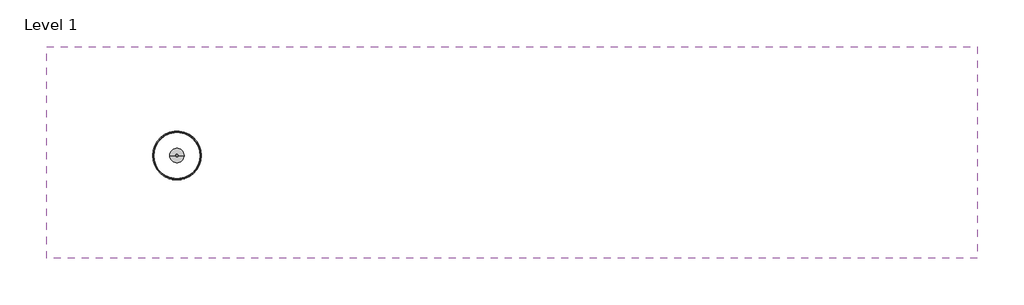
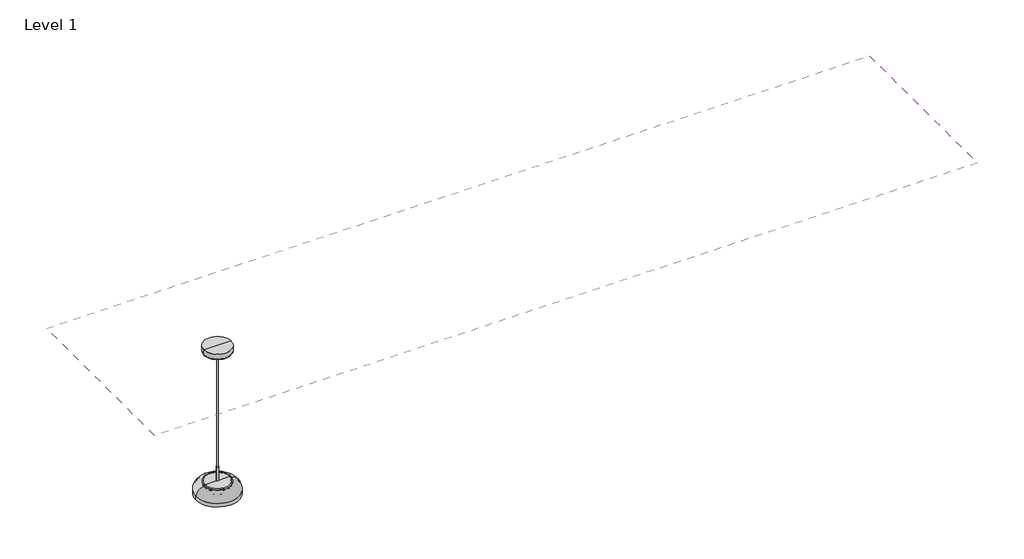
# One storey: 1 covering, 1 light fixture.
"""IFC4 building model written with IfcOpenShell, lengths in millimetres."""

import ifcopenshell
import ifcopenshell.guid

model = None  # the IFC model being written
_history = None  # IfcOwnerHistory: only IFC2X3 demands one
_inside = {}  # id of a spatial element -> (the spatial element, [elements in it])
_under = {}  # id of a project, library or spatial element -> (it, [spatial elements below it])
_declared = {}  # id of a project -> (the project, [libraries it declares])
_typed = {}  # id of a type object -> (the type object, [elements of that type])
_made_of = {}  # id of a material, layer set ... -> (it, [elements and type objects made of it])


def new_model(schema):
    """Start an empty IFC model of exactly this schema.

    Asked for "IFC4X3", IfcOpenShell would pick the latest addendum, in which some entities
    have other attributes; the version numbers below select the first issue.
    IFC2X3 requires an IfcOwnerHistory on every rooted entity: one is made here for all.
    """
    global model, _history
    if schema == "IFC4X3":
        model = ifcopenshell.file(schema_version=(4, 3, 0, 0))
    else:
        model = ifcopenshell.file(schema=schema)
    _inside.clear()
    _under.clear()
    _declared.clear()
    _typed.clear()
    _made_of.clear()
    _history = None
    if model.schema == "IFC2X3":
        org = make("IfcOrganization", Name="unknown")
        user = make(
            "IfcPersonAndOrganization",
            ThePerson=make("IfcPerson", FamilyName="unknown"),
            TheOrganization=org,
        )
        app = make(
            "IfcApplication",
            ApplicationDeveloper=org,
            Version="unknown",
            ApplicationFullName="unknown",
            ApplicationIdentifier="unknown",
        )
        _history = make(
            "IfcOwnerHistory",
            OwningUser=user,
            OwningApplication=app,
            ChangeAction="ADDED",
            CreationDate=0,
        )
    return model


def make(cls, **values):
    """One entity of the class cls with the attributes given. An attribute that is None is left unset."""
    return model.create_entity(
        cls, **{name: value for name, value in values.items() if value is not None}
    )


def rooted(cls, **values):
    """An entity with a GlobalId (a new one), such as an element, a storey or a relation."""
    return make(cls, GlobalId=ifcopenshell.guid.new(), OwnerHistory=_history, **values)


def si_unit(unit_type, name, prefix=None):
    """IfcSIUnit, for example si_unit("LENGTHUNIT", "METRE", prefix="MILLI")."""
    return make("IfcSIUnit", UnitType=unit_type, Prefix=prefix, Name=name)


def assignment(units):
    """IfcUnitAssignment: the units of a project."""
    return None if units is None else make("IfcUnitAssignment", Units=units)


def point(xyz):
    """IfcCartesianPoint."""
    return None if xyz is None else make("IfcCartesianPoint", Coordinates=xyz)


def direction(xyz):
    """IfcDirection."""
    return None if xyz is None else make("IfcDirection", DirectionRatios=xyz)


def frame(location, z_axis=None, x_axis=None):
    """IfcAxis2Placement3D, a coordinate frame: its origin and axes. An axis left out is left unset."""
    return make(
        "IfcAxis2Placement3D",
        Location=point(location),
        Axis=direction(z_axis),
        RefDirection=direction(x_axis),
    )


def frame_2d(location, x_axis=None):
    """IfcAxis2Placement2D, a coordinate frame in the plane: its origin and x axis."""
    return make(
        "IfcAxis2Placement2D", Location=point(location), RefDirection=direction(x_axis)
    )


def origin():
    """The frame at (0, 0, 0) with its axes left unset."""
    return frame((0.0, 0.0, 0.0))


def origin_2d():
    """The frame at (0, 0) in the plane with its x axis left unset."""
    return frame_2d((0.0, 0.0))


def place(relative_to, where):
    """IfcLocalPlacement: puts the frame where relative to a parent placement (None: the world)."""
    return make(
        "IfcLocalPlacement", PlacementRelTo=relative_to, RelativePlacement=where
    )


def context(
    kind, dimensions, precision=None, world=None, true_north=None, identifier=None
):
    """IfcGeometricRepresentationContext, for example the 3D "Model" context."""
    return make(
        "IfcGeometricRepresentationContext",
        ContextIdentifier=identifier,
        ContextType=kind,
        CoordinateSpaceDimension=dimensions,
        Precision=precision,
        WorldCoordinateSystem=world,
        TrueNorth=true_north,
    )


def project(units=None, contexts=None):
    """IfcProject with its units and contexts."""
    return rooted(
        "IfcProject",
        Name="project",
        RepresentationContexts=contexts,
        UnitsInContext=assignment(units),
    )


def spatial(cls, under=None, at=None, **own):
    """A site, building, storey or space (cls), placed at a placement, below another one or the project."""
    s = rooted(cls, ObjectPlacement=at, **own)
    if under is not None:
        _under.setdefault(under.id(), (under, []))[1].append(s)
    return s


def polyline(points):
    """IfcPolyline through the points."""
    return make("IfcPolyline", Points=[point(p) for p in points])


def circle_curve(where, radius):
    """IfcCircle in the frame where."""
    return make("IfcCircle", Position=where, Radius=radius)


def ellipse_curve(where, semi_axis1, semi_axis2):
    """IfcEllipse in the frame where."""
    return make(
        "IfcEllipse", Position=where, SemiAxis1=semi_axis1, SemiAxis2=semi_axis2
    )


def trimmed(basis, trim1, trim2, sense, master):
    """IfcTrimmedCurve: the piece of a basis curve between two trims."""
    return make(
        "IfcTrimmedCurve",
        BasisCurve=basis,
        Trim1=trim1,
        Trim2=trim2,
        SenseAgreement=sense,
        MasterRepresentation=master,
    )


def segment(curve, same_sense, transition):
    """IfcCompositeCurveSegment."""
    return make(
        "IfcCompositeCurveSegment",
        Transition=transition,
        SameSense=same_sense,
        ParentCurve=curve,
    )


def composite_curve(segments, self_intersect=None):
    """IfcCompositeCurve: segments joined end to end."""
    return make("IfcCompositeCurve", Segments=segments, SelfIntersect=self_intersect)


def outline(outer, holes=None, kind="AREA"):
    """IfcArbitraryClosedProfileDef: a profile drawn as a closed curve; with holes, ...WithVoids."""
    if holes is None:
        return make("IfcArbitraryClosedProfileDef", ProfileType=kind, OuterCurve=outer)
    return make(
        "IfcArbitraryProfileDefWithVoids",
        ProfileType=kind,
        OuterCurve=outer,
        InnerCurves=holes,
    )


def extrude(swept, where, along, depth):
    """IfcExtrudedAreaSolid: the profile swept, set in the frame where, extruded along a direction by depth."""
    return make(
        "IfcExtrudedAreaSolid",
        SweptArea=swept,
        Position=where,
        ExtrudedDirection=direction(along),
        Depth=depth,
    )


def shape(context_of_items, identifier, shape_type, items):
    """IfcShapeRepresentation: the items that make up one representation, for example the "Body"."""
    return make(
        "IfcShapeRepresentation",
        ContextOfItems=context_of_items,
        RepresentationIdentifier=identifier,
        RepresentationType=shape_type,
        Items=items,
    )


def source(mapping_origin, context_of_items, identifier, shape_type, items):
    """IfcRepresentationMap: a shape defined once, which mapped items show again and again."""
    return make(
        "IfcRepresentationMap",
        MappingOrigin=mapping_origin,
        MappedRepresentation=shape(context_of_items, identifier, shape_type, items),
    )


def transform(
    local_origin,
    x_axis=None,
    y_axis=None,
    z_axis=None,
    scale=None,
    scale2=None,
    scale3=None,
    uniform=True,
):
    """IfcCartesianTransformationOperator3D, or its non-uniform kind. x_axis, y_axis, z_axis: its Axis1, 2, 3."""
    if uniform:
        return make(
            "IfcCartesianTransformationOperator3D",
            Axis1=direction(x_axis),
            Axis2=direction(y_axis),
            LocalOrigin=point(local_origin),
            Scale=scale,
            Axis3=direction(z_axis),
        )
    return make(
        "IfcCartesianTransformationOperator3DnonUniform",
        Axis1=direction(x_axis),
        Axis2=direction(y_axis),
        LocalOrigin=point(local_origin),
        Scale=scale,
        Axis3=direction(z_axis),
        Scale2=scale2,
        Scale3=scale3,
    )


def mapped(mapping_source, mapping_target):
    """IfcMappedItem: shows the shape of a source again, moved by a transform."""
    return make(
        "IfcMappedItem", MappingSource=mapping_source, MappingTarget=mapping_target
    )


def made_of(thing, what):
    """Note that an element or type object is made of a material, layer set ...; save() writes the relation."""
    if what is not None:
        _made_of.setdefault(what.id(), (what, []))[1].append(thing)
    return thing


def element(
    cls,
    number,
    at=None,
    inside=None,
    cuts=None,
    type_object=None,
    material=None,
    context=None,
    identifier="Body",
    shape_type=None,
    held_by="IfcProductDefinitionShape",
    body=None,
    shapes=None,
    **own,
):
    """One element of the class cls, such as IfcWall. Its Tag is "e" and its number.

    at: its placement. inside: the storey or other place that contains it. cuts: it is an
    opening in that element (IfcRelVoidsElement). A single representation is given by context,
    identifier, shape_type and body (its items); several are given by shapes. held_by: the class
    of the entity that holds the representations. save() writes the other relations.
    """
    e = rooted(cls, Tag="e%d" % number, ObjectPlacement=at, **own)
    if body is not None:
        shapes = [shape(context, identifier, shape_type, body)]
    if shapes is not None:
        e.Representation = make(held_by, Representations=shapes)
    if inside is not None:
        _inside.setdefault(inside.id(), (inside, []))[1].append(e)
    if cuts is not None:
        rooted(
            "IfcRelVoidsElement", RelatingBuildingElement=cuts, RelatedOpeningElement=e
        )
    if type_object is not None:
        _typed.setdefault(type_object.id(), (type_object, []))[1].append(e)
    return made_of(e, material)


def aggregate(whole, parts):
    """IfcRelAggregates: a whole, such as a stair, and the parts it consists of."""
    return rooted("IfcRelAggregates", RelatingObject=whole, RelatedObjects=parts)


def save(model, path):
    """Write the relations noted so far, then the file.

    IfcRelAggregates (storeys below a building ...), IfcRelContainedInSpatialStructure (elements
    in a storey), IfcRelDefinesByType, IfcRelAssociatesMaterial and IfcRelDeclares: one each for
    every whole, place, type object, material and project.
    """
    for whole, parts in _under.values():
        aggregate(whole, parts)
    for where, things in _inside.values():
        rooted(
            "IfcRelContainedInSpatialStructure",
            RelatedElements=things,
            RelatingStructure=where,
        )
    for kind, things in _typed.values():
        rooted("IfcRelDefinesByType", RelatedObjects=things, RelatingType=kind)
    for what, things in _made_of.values():
        rooted("IfcRelAssociatesMaterial", RelatedObjects=things, RelatingMaterial=what)
    for by, libraries in _declared.values():
        rooted("IfcRelDeclares", RelatingContext=by, RelatedDefinitions=libraries)
    model.write(path)


def plane_surface(at):
    """IfcPlane: the flat surface through the origin of the frame at, square to its z axis."""
    return make("IfcPlane", Position=at)


def cylinder_surface(at, radius):
    """IfcCylindricalSurface: all points at the distance radius from the z axis of the frame at."""
    return make("IfcCylindricalSurface", Position=at, Radius=radius)


def revolved_surface(curve, axis_point, axis_direction):
    """IfcSurfaceOfRevolution: the curve turned about the line through axis_point along axis_direction."""
    return make(
        "IfcSurfaceOfRevolution",
        SweptCurve=make("IfcArbitraryOpenProfileDef", ProfileType="CURVE", Curve=curve),
        AxisPosition=make("IfcAxis1Placement", Location=point(axis_point), Axis=direction(axis_direction)),
    )


def advanced_brep(points, edges, surfaces, faces):
    """IfcAdvancedBrep: a solid bounded by faces that lie on surfaces and meet in shared edges.

    An edge is (start, end): straight between two places in points (the first is 0);
    or (start, end, curve); or (start, end, curve, False) where it runs against its curve.
    A face is (place in surfaces, loops), or (place, loops, False) where it looks against
    its surface's normal. A loop lists edges by number (the first is 1), with a minus sign
    where the edge is run from its end to its start. The first loop is the outer one.
    """
    corners = [point(p) for p in points]
    vertices = [make("IfcVertexPoint", VertexGeometry=c) for c in corners]
    made = []
    for start, end, *more in edges:
        made.append(
            make(
                "IfcEdgeCurve",
                EdgeStart=vertices[start],
                EdgeEnd=vertices[end],
                EdgeGeometry=more[0] if more else make("IfcPolyline", Points=[corners[start], corners[end]]),
                SameSense=more[1] if len(more) > 1 else True,
            )
        )
    hull = []
    for where, loops, *sense in faces:
        bounds = []
        for j, loop in enumerate(loops):
            ring = [make("IfcOrientedEdge", EdgeElement=made[abs(k) - 1], Orientation=k > 0) for k in loop]
            bounds.append(
                make(
                    "IfcFaceOuterBound" if j == 0 else "IfcFaceBound",
                    Bound=make("IfcEdgeLoop", EdgeList=ring),
                    Orientation=True,
                )
            )
        hull.append(make("IfcAdvancedFace", Bounds=bounds, FaceSurface=surfaces[where], SameSense=sense[0] if sense else True))
    return make("IfcAdvancedBrep", Outer=make("IfcClosedShell", CfsFaces=hull))


def type_1_ec86bb28(model_context):
    return source(origin(), model_context, "Body", "SolidModel", [
        advanced_brep(
        [(-65.0, 0.0, 1671.4), (65.0, 0.0, 1671.4), (65.0, 0.0, 1668.4), (-65.0, 0.0, 1668.4), (-61.0, 0.0, 1671.4), (61.0, 0.0, 1671.4), (-61.0, 0.0, 1664.4), (61.0, 0.0, 1664.4), (-71.0, 0.0, 1664.4), (71.0, 0.0, 1664.4), (-111.0, 0.0, 1624.4), (111.0, 0.0, 1624.4), (-111.0, 0.0, 1604.4), (111.0, 0.0, 1604.4), (-115.0, 0.0, 1604.4), (115.0, 0.0, 1604.4), (-115.0, 0.0, 1624.4), (115.0, 0.0, 1624.4), (-71.0, 0.0, 1668.4), (71.0, 0.0, 1668.4)],
        [
            (0, 1, circle_curve(frame((0.0, 0.0, 1671.4), z_axis=(0.0, 0.0, -1.0), x_axis=(1.0, 0.0, 0.0)), 65.0)),
            (1, 2),
            (2, 3, circle_curve(frame((0.0, 0.0, 1668.4), z_axis=(0.0, 0.0, 1.0), x_axis=(1.0, 0.0, 0.0)), 65.0)),
            (3, 0),
            (1, 0, circle_curve(frame((0.0, 0.0, 1671.4), z_axis=(0.0, 0.0, -1.0), x_axis=(1.0, 0.0, 0.0)), 65.0)),
            (3, 2, circle_curve(frame((0.0, 0.0, 1668.4), z_axis=(0.0, 0.0, 1.0), x_axis=(1.0, 0.0, 0.0)), 65.0)),
            (4, 5, circle_curve(frame((0.0, 0.0, 1671.4), z_axis=(0.0, 0.0, -1.0), x_axis=(1.0, 0.0, 0.0)), 61.0)),
            (5, 1),
            (0, 4),
            (5, 4, circle_curve(frame((0.0, 0.0, 1671.4), z_axis=(0.0, 0.0, -1.0), x_axis=(1.0, 0.0, 0.0)), 61.0)),
            (6, 7, circle_curve(frame((0.0, 0.0, 1664.4), z_axis=(0.0, 0.0, -1.0), x_axis=(1.0, 0.0, 0.0)), 61.0)),
            (7, 5),
            (4, 6),
            (7, 6, circle_curve(frame((0.0, 0.0, 1664.4), z_axis=(0.0, 0.0, -1.0), x_axis=(1.0, 0.0, 0.0)), 61.0)),
            (8, 9, circle_curve(frame((0.0, 0.0, 1664.4), z_axis=(0.0, 0.0, -1.0), x_axis=(1.0, 0.0, 0.0)), 71.0)),
            (9, 7),
            (6, 8),
            (9, 8, circle_curve(frame((0.0, 0.0, 1664.4), z_axis=(0.0, 0.0, -1.0), x_axis=(1.0, 0.0, 0.0)), 71.0)),
            (10, 11, circle_curve(frame((0.0, 0.0, 1624.4), z_axis=(0.0, 0.0, -1.0), x_axis=(1.0, 0.0, 0.0)), 111.0)),
            (11, 9, circle_curve(frame((71.0, 0.0, 1624.4), z_axis=(0.0, -1.0, 0.0), x_axis=(1.0, 0.0, 0.0)), 40.0)),
            (8, 10, circle_curve(frame((-71.0, 0.0, 1624.4), z_axis=(0.0, -1.0, 0.0), x_axis=(-1.0, 0.0, 0.0)), 40.0)),
            (11, 10, circle_curve(frame((0.0, 0.0, 1624.4), z_axis=(0.0, 0.0, -1.0), x_axis=(1.0, 0.0, 0.0)), 111.0)),
            (12, 13, circle_curve(frame((0.0, 0.0, 1604.4), z_axis=(0.0, 0.0, -1.0), x_axis=(1.0, 0.0, 0.0)), 111.0)),
            (13, 11),
            (10, 12),
            (13, 12, circle_curve(frame((0.0, 0.0, 1604.4), z_axis=(0.0, 0.0, -1.0), x_axis=(1.0, 0.0, 0.0)), 111.0)),
            (14, 15, circle_curve(frame((0.0, 0.0, 1604.4), z_axis=(0.0, 0.0, -1.0), x_axis=(1.0, 0.0, 0.0)), 115.0)),
            (15, 13),
            (12, 14),
            (15, 14, circle_curve(frame((0.0, 0.0, 1604.4), z_axis=(0.0, 0.0, -1.0), x_axis=(1.0, 0.0, 0.0)), 115.0)),
            (16, 17, circle_curve(frame((0.0, 0.0, 1624.4), z_axis=(0.0, 0.0, -1.0), x_axis=(1.0, 0.0, 0.0)), 115.0)),
            (17, 15),
            (14, 16),
            (17, 16, circle_curve(frame((0.0, 0.0, 1624.4), z_axis=(0.0, 0.0, -1.0), x_axis=(1.0, 0.0, 0.0)), 115.0)),
            (18, 19, circle_curve(frame((0.0, 0.0, 1668.4), z_axis=(0.0, 0.0, -1.0), x_axis=(1.0, 0.0, 0.0)), 71.0)),
            (19, 17, circle_curve(frame((71.0, 0.0, 1624.4), z_axis=(0.0, 1.0, 0.0), x_axis=(1.0, 0.0, 0.0)), 44.0)),
            (16, 18, circle_curve(frame((-71.0, 0.0, 1624.4), z_axis=(0.0, 1.0, 0.0), x_axis=(-1.0, 0.0, 0.0)), 44.0)),
            (19, 18, circle_curve(frame((0.0, 0.0, 1668.4), z_axis=(0.0, 0.0, -1.0), x_axis=(1.0, 0.0, 0.0)), 71.0)),
            (2, 19),
            (18, 3),
        ],
        [
            cylinder_surface(frame((0.0, 0.0, 1706.7574384), z_axis=(0.0, 0.0, 1.0), x_axis=(1.0, 0.0, 0.0)), 65.0),
            plane_surface(frame((0.0, 0.0, 1671.4), z_axis=(0.0, 0.0, 1.0), x_axis=(1.0, 0.0, 0.0))),
            revolved_surface(polyline([(61.0, 0.0, 1671.4), (61.0, 0.0, 1664.4)]), (0.0, 0.0, 1706.7574384), (0.0, 0.0, 1.0)),
            plane_surface(frame((0.0, 0.0, 1664.4), z_axis=(0.0, 0.0, -1.0), x_axis=(1.0, 0.0, 0.0))),
            revolved_surface(trimmed(ellipse_curve(frame((71.0, 0.0, 1624.4), z_axis=(0.0, 1.0, 0.0), x_axis=(1.0, 0.0, 0.0)), 40.0, 40.0), [point((71.0, 0.0, 1664.4))], [point((111.0, 0.0, 1624.4))], True, "CARTESIAN"), (0.0, 0.0, 1706.7574384), (0.0, 0.0, 1.0)),
            revolved_surface(polyline([(111.0, 0.0, 1624.4), (111.0, 0.0, 1604.4)]), (0.0, 0.0, 1706.7574384), (0.0, 0.0, 1.0)),
            plane_surface(frame((0.0, 0.0, 1604.4), z_axis=(0.0, 0.0, -1.0), x_axis=(1.0, 0.0, 0.0))),
            cylinder_surface(frame((0.0, 0.0, 1706.7574384), z_axis=(0.0, 0.0, 1.0), x_axis=(1.0, 0.0, 0.0)), 115.0),
            revolved_surface(trimmed(ellipse_curve(frame((71.0, 0.0, 1624.4), z_axis=(0.0, -1.0, 0.0), x_axis=(1.0, 0.0, 0.0)), 44.0, 44.0), [point((115.0, 0.0, 1624.4))], [point((71.0, 0.0, 1668.4))], True, "CARTESIAN"), (0.0, 0.0, 1706.7574384), (0.0, 0.0, 1.0)),
            plane_surface(frame((0.0, 0.0, 1668.4), z_axis=(0.0, 0.0, 1.0), x_axis=(1.0, 0.0, 0.0))),
        ],
        [
            (0, [[1, 2, 3, 4]]),
            (0, [[5, -4, 6, -2]]),
            (1, [[7, 8, -1, 9]]),
            (1, [[10, -9, -5, -8]]),
            (2, [[11, 12, -7, 13]]),
            (2, [[14, -13, -10, -12]]),
            (3, [[15, 16, -11, 17]]),
            (3, [[18, -17, -14, -16]]),
            (4, [[19, 20, -15, 21]]),
            (4, [[22, -21, -18, -20]]),
            (5, [[23, 24, -19, 25]]),
            (5, [[26, -25, -22, -24]]),
            (6, [[27, 28, -23, 29]]),
            (6, [[30, -29, -26, -28]]),
            (7, [[31, 32, -27, 33]]),
            (7, [[34, -33, -30, -32]]),
            (8, [[35, 36, -31, 37]]),
            (8, [[38, -37, -34, -36]]),
            (9, [[-3, 39, -35, 40]]),
            (9, [[-6, -40, -38, -39]]),
        ],
    ),
        advanced_brep(
        [(5.85, 0.0, 1624.9), (-5.85, 0.0, 1624.9), (-5.85, 0.0, 1658.4), (5.85, 0.0, 1658.4), (0.0, 0.0, 1624.9), (0.0, 0.0, 1658.4)],
        [
            (0, 1, circle_curve(frame((0.0, 0.0, 1624.9), z_axis=(0.0, 0.0, 1.0), x_axis=(-1.0, 0.0, 0.0)), 5.85)),
            (1, 2),
            (2, 3, circle_curve(frame((0.0, 0.0, 1658.4), z_axis=(0.0, 0.0, -1.0), x_axis=(-1.0, 0.0, 0.0)), 5.85)),
            (3, 0),
            (1, 0, circle_curve(frame((0.0, 0.0, 1624.9), z_axis=(0.0, 0.0, 1.0), x_axis=(-1.0, 0.0, 0.0)), 5.85)),
            (3, 2, circle_curve(frame((0.0, 0.0, 1658.4), z_axis=(0.0, 0.0, -1.0), x_axis=(-1.0, 0.0, 0.0)), 5.85)),
            (4, 1),
            (0, 4),
            (2, 5),
            (5, 3),
        ],
        [
            cylinder_surface(frame((0.0, 0.0, 1547.5132457), z_axis=(0.0, 0.0, -1.0), x_axis=(-1.0, 0.0, 0.0)), 5.85),
            plane_surface(frame((0.0, 0.0, 1624.9), z_axis=(0.0, 0.0, -1.0), x_axis=(-1.0, 0.0, 0.0))),
            plane_surface(frame((0.0, 0.0, 1658.4), z_axis=(0.0, 0.0, 1.0), x_axis=(-1.0, 0.0, 0.0))),
        ],
        [
            (0, [[1, 2, 3, 4]]),
            (0, [[5, -4, 6, -2]]),
            (1, [[7, -1, 8]]),
            (1, [[-8, -5, -7]]),
            (2, [[-3, 9, 10]]),
            (2, [[-6, -10, -9]]),
        ],
    ),
        extrude(outline(composite_curve([segment(trimmed(circle_curve(origin_2d(), 3.0), [point((-3.0, 0.0))], [point((3.0, 0.0))], False, "CARTESIAN"), True, "CONTINUOUS"), segment(trimmed(circle_curve(origin_2d(), 3.0), [point((3.0, 0.0))], [point((-3.0, 0.0))], False, "CARTESIAN"), True, "CONTINUOUS")], self_intersect=False)), frame((0.0, 0.0, 1754.4), z_axis=(0.0, 0.0, 1.0), x_axis=(1.0, 0.0, 0.0)), (0.0, 0.0, 1.0), 654.0),
        advanced_brep(
        [(-65.0, 0.0, 1671.4), (65.0, 0.0, 1671.4), (0.0, 0.0, 1671.4), (-65.0, 0.0, 1668.4), (65.0, 0.0, 1668.4), (-71.5, 0.0, 1668.4), (71.5, 0.0, 1668.4), (-71.5, 0.0, 1669.4), (71.5, 0.0, 1669.4), (-66.5, 0.0, 1674.4), (66.5, 0.0, 1674.4), (-6.0, 0.0, 1674.4), (6.0, 0.0, 1674.4), (-6.0, 0.0, 1754.4), (6.0, 0.0, 1754.4), (0.0, 0.0, 1754.4)],
        [
            (0, 1, circle_curve(frame((0.0, 0.0, 1671.4), z_axis=(0.0, 0.0, -1.0), x_axis=(1.0, 0.0, 0.0)), 65.0)),
            (1, 2),
            (2, 0),
            (1, 0, circle_curve(frame((0.0, 0.0, 1671.4), z_axis=(0.0, 0.0, -1.0), x_axis=(1.0, 0.0, 0.0)), 65.0)),
            (3, 4, circle_curve(frame((0.0, 0.0, 1668.4), z_axis=(0.0, 0.0, -1.0), x_axis=(1.0, 0.0, 0.0)), 65.0)),
            (4, 1),
            (0, 3),
            (4, 3, circle_curve(frame((0.0, 0.0, 1668.4), z_axis=(0.0, 0.0, -1.0), x_axis=(1.0, 0.0, 0.0)), 65.0)),
            (5, 6, circle_curve(frame((0.0, 0.0, 1668.4), z_axis=(0.0, 0.0, -1.0), x_axis=(1.0, 0.0, 0.0)), 71.5)),
            (6, 4),
            (3, 5),
            (6, 5, circle_curve(frame((0.0, 0.0, 1668.4), z_axis=(0.0, 0.0, -1.0), x_axis=(1.0, 0.0, 0.0)), 71.5)),
            (7, 8, circle_curve(frame((0.0, 0.0, 1669.4), z_axis=(0.0, 0.0, -1.0), x_axis=(1.0, 0.0, 0.0)), 71.5)),
            (8, 6),
            (5, 7),
            (8, 7, circle_curve(frame((0.0, 0.0, 1669.4), z_axis=(0.0, 0.0, -1.0), x_axis=(1.0, 0.0, 0.0)), 71.5)),
            (9, 10, circle_curve(frame((0.0, 0.0, 1674.4), z_axis=(0.0, 0.0, -1.0), x_axis=(1.0, 0.0, 0.0)), 66.5)),
            (10, 8, circle_curve(frame((66.5, 0.0, 1669.4), z_axis=(0.0, 1.0, 0.0), x_axis=(1.0, 0.0, 0.0)), 5.0)),
            (7, 9, circle_curve(frame((-66.5, 0.0, 1669.4), z_axis=(0.0, 1.0, 0.0), x_axis=(-1.0, 0.0, 0.0)), 5.0)),
            (10, 9, circle_curve(frame((0.0, 0.0, 1674.4), z_axis=(0.0, 0.0, -1.0), x_axis=(1.0, 0.0, 0.0)), 66.5)),
            (11, 12, circle_curve(frame((0.0, 0.0, 1674.4), z_axis=(0.0, 0.0, -1.0), x_axis=(1.0, 0.0, 0.0)), 6.0)),
            (12, 10),
            (9, 11),
            (12, 11, circle_curve(frame((0.0, 0.0, 1674.4), z_axis=(0.0, 0.0, -1.0), x_axis=(1.0, 0.0, 0.0)), 6.0)),
            (13, 14, circle_curve(frame((0.0, 0.0, 1754.4), z_axis=(0.0, 0.0, -1.0), x_axis=(1.0, 0.0, 0.0)), 6.0)),
            (14, 12),
            (11, 13),
            (14, 13, circle_curve(frame((0.0, 0.0, 1754.4), z_axis=(0.0, 0.0, -1.0), x_axis=(1.0, 0.0, 0.0)), 6.0)),
            (15, 14),
            (13, 15),
        ],
        [
            plane_surface(frame((0.0, 0.0, 1671.4), z_axis=(0.0, 0.0, -1.0), x_axis=(1.0, 0.0, 0.0))),
            revolved_surface(polyline([(65.0, 0.0, 1671.4), (65.0, 0.0, 1668.4)]), (0.0, 0.0, 1768.3899823), (0.0, 0.0, 1.0)),
            plane_surface(frame((0.0, 0.0, 1668.4), z_axis=(0.0, 0.0, -1.0), x_axis=(1.0, 0.0, 0.0))),
            cylinder_surface(frame((0.0, 0.0, 1768.3899823), z_axis=(0.0, 0.0, 1.0), x_axis=(1.0, 0.0, 0.0)), 71.5),
            revolved_surface(trimmed(ellipse_curve(frame((66.5, 0.0, 1669.4), z_axis=(0.0, -1.0, 0.0), x_axis=(1.0, 0.0, 0.0)), 5.0, 5.0), [point((71.5, 0.0, 1669.4))], [point((66.5, 0.0, 1674.4))], True, "CARTESIAN"), (0.0, 0.0, 1768.3899823), (0.0, 0.0, 1.0)),
            plane_surface(frame((0.0, 0.0, 1674.4), z_axis=(0.0, 0.0, 1.0), x_axis=(1.0, 0.0, 0.0))),
            cylinder_surface(frame((0.0, 0.0, 1768.3899823), z_axis=(0.0, 0.0, 1.0), x_axis=(1.0, 0.0, 0.0)), 6.0),
            plane_surface(frame((0.0, 0.0, 1754.4), z_axis=(0.0, 0.0, 1.0), x_axis=(1.0, 0.0, 0.0))),
        ],
        [
            (0, [[1, 2, 3]]),
            (0, [[4, -3, -2]]),
            (1, [[5, 6, -1, 7]]),
            (1, [[8, -7, -4, -6]]),
            (2, [[9, 10, -5, 11]]),
            (2, [[12, -11, -8, -10]]),
            (3, [[13, 14, -9, 15]]),
            (3, [[16, -15, -12, -14]]),
            (4, [[17, 18, -13, 19]]),
            (4, [[20, -19, -16, -18]]),
            (5, [[21, 22, -17, 23]]),
            (5, [[24, -23, -20, -22]]),
            (6, [[25, 26, -21, 27]]),
            (6, [[28, -27, -24, -26]]),
            (7, [[29, -25, 30]]),
            (7, [[-30, -28, -29]]),
        ],
    ),
        advanced_brep(
        [(-66.5, 0.0, 1658.4), (66.5, 0.0, 1658.4), (0.0, 0.0, 1658.4), (-71.5, 0.0, 1663.4), (71.5, 0.0, 1663.4), (-71.5, 0.0, 1664.4), (71.5, 0.0, 1664.4), (0.0, 0.0, 1664.4)],
        [
            (0, 1, circle_curve(frame((0.0, 0.0, 1658.4), z_axis=(0.0, 0.0, -1.0), x_axis=(1.0, 0.0, 0.0)), 66.5)),
            (1, 2),
            (2, 0),
            (1, 0, circle_curve(frame((0.0, 0.0, 1658.4), z_axis=(0.0, 0.0, -1.0), x_axis=(1.0, 0.0, 0.0)), 66.5)),
            (3, 4, circle_curve(frame((0.0, 0.0, 1663.4), z_axis=(0.0, 0.0, -1.0), x_axis=(1.0, 0.0, 0.0)), 71.5)),
            (4, 1, circle_curve(frame((66.5, 0.0, 1663.4), z_axis=(0.0, 1.0, 0.0), x_axis=(1.0, 0.0, 0.0)), 5.0)),
            (0, 3, circle_curve(frame((-66.5, 0.0, 1663.4), z_axis=(0.0, 1.0, 0.0), x_axis=(-1.0, 0.0, 0.0)), 5.0)),
            (4, 3, circle_curve(frame((0.0, 0.0, 1663.4), z_axis=(0.0, 0.0, -1.0), x_axis=(1.0, 0.0, 0.0)), 71.5)),
            (5, 6, circle_curve(frame((0.0, 0.0, 1664.4), z_axis=(0.0, 0.0, -1.0), x_axis=(1.0, 0.0, 0.0)), 71.5)),
            (6, 4),
            (3, 5),
            (6, 5, circle_curve(frame((0.0, 0.0, 1664.4), z_axis=(0.0, 0.0, -1.0), x_axis=(1.0, 0.0, 0.0)), 71.5)),
            (7, 6),
            (5, 7),
        ],
        [
            plane_surface(frame((0.0, 0.0, 1658.4), z_axis=(0.0, 0.0, -1.0), x_axis=(1.0, 0.0, 0.0))),
            revolved_surface(trimmed(ellipse_curve(frame((66.5, 0.0, 1663.4), z_axis=(0.0, -1.0, 0.0), x_axis=(1.0, 0.0, 0.0)), 5.0, 5.0), [point((66.5, 0.0, 1658.4))], [point((71.5, 0.0, 1663.4))], True, "CARTESIAN"), (0.0, 0.0, 1768.3899823), (0.0, 0.0, 1.0)),
            cylinder_surface(frame((0.0, 0.0, 1768.3899823), z_axis=(0.0, 0.0, 1.0), x_axis=(1.0, 0.0, 0.0)), 71.5),
            plane_surface(frame((0.0, 0.0, 1664.4), z_axis=(0.0, 0.0, 1.0), x_axis=(1.0, 0.0, 0.0))),
        ],
        [
            (0, [[1, 2, 3]]),
            (0, [[4, -3, -2]]),
            (1, [[5, 6, -1, 7]]),
            (1, [[8, -7, -4, -6]]),
            (2, [[9, 10, -5, 11]]),
            (2, [[12, -11, -8, -10]]),
            (3, [[13, -9, 14]]),
            (3, [[-14, -12, -13]]),
        ],
    ),
        advanced_brep(
        [(-33.75, 0.0, 1618.4242248), (33.75, 0.0, 1618.4242248), (27.2257752, 0.0, 1611.9), (-27.2257752, 0.0, 1611.9), (-33.75, 0.0, 1624.9), (33.75, 0.0, 1624.9), (0.0, 0.0, 1624.9), (0.0, 0.0, 1611.9)],
        [
            (0, 1, circle_curve(frame((0.0, 0.0, 1618.4242248), z_axis=(0.0, 0.0, -1.0), x_axis=(1.0, 0.0, 0.0)), 33.75)),
            (1, 2, circle_curve(frame((27.2257752, 0.0, 1618.4242248), z_axis=(0.0, 1.0, 0.0), x_axis=(1.0, 0.0, 0.0)), 6.5242248)),
            (2, 3, circle_curve(frame((0.0, 0.0, 1611.9), z_axis=(0.0, 0.0, 1.0), x_axis=(1.0, 0.0, 0.0)), 27.2257752)),
            (3, 0, circle_curve(frame((-27.2257752, 0.0, 1618.4242248), z_axis=(0.0, 1.0, 0.0), x_axis=(-1.0, 0.0, 0.0)), 6.5242248)),
            (1, 0, circle_curve(frame((0.0, 0.0, 1618.4242248), z_axis=(0.0, 0.0, -1.0), x_axis=(1.0, 0.0, 0.0)), 33.75)),
            (3, 2, circle_curve(frame((0.0, 0.0, 1611.9), z_axis=(0.0, 0.0, 1.0), x_axis=(1.0, 0.0, 0.0)), 27.2257752)),
            (4, 5, circle_curve(frame((0.0, 0.0, 1624.9), z_axis=(0.0, 0.0, -1.0), x_axis=(1.0, 0.0, 0.0)), 33.75)),
            (5, 1),
            (0, 4),
            (5, 4, circle_curve(frame((0.0, 0.0, 1624.9), z_axis=(0.0, 0.0, -1.0), x_axis=(1.0, 0.0, 0.0)), 33.75)),
            (6, 5),
            (4, 6),
            (2, 7),
            (7, 3),
        ],
        [
            revolved_surface(trimmed(ellipse_curve(frame((27.2257752, 0.0, 1618.4242248), z_axis=(0.0, -1.0, 0.0), x_axis=(1.0, 0.0, 0.0)), 6.5242248, 6.5242248), [point((27.2257752, 0.0, 1611.9))], [point((33.75, 0.0, 1618.4242248))], True, "CARTESIAN"), (0.0, 0.0, 1768.3899823), (0.0, 0.0, 1.0)),
            cylinder_surface(frame((0.0, 0.0, 1768.3899823), z_axis=(0.0, 0.0, 1.0), x_axis=(1.0, 0.0, 0.0)), 33.75),
            plane_surface(frame((0.0, 0.0, 1624.9), z_axis=(0.0, 0.0, 1.0), x_axis=(1.0, 0.0, 0.0))),
            plane_surface(frame((0.0, 0.0, 1611.9), z_axis=(0.0, 0.0, -1.0), x_axis=(1.0, 0.0, 0.0))),
        ],
        [
            (0, [[1, 2, 3, 4]]),
            (0, [[5, -4, 6, -2]]),
            (1, [[7, 8, -1, 9]]),
            (1, [[10, -9, -5, -8]]),
            (2, [[11, -7, 12]]),
            (2, [[-12, -10, -11]]),
            (3, [[-3, 13, 14]]),
            (3, [[-6, -14, -13]]),
        ],
    ),
        advanced_brep(
        [(-72.5, 0.0, 2438.4), (72.5, 0.0, 2438.4), (72.5, 0.0, 2409.9009326), (-72.5, 0.0, 2409.9009326), (0.0, 0.0, 2438.4), (-7.0, 0.0, 2392.4), (7.0, 0.0, 2392.4), (0.0, 0.0, 2392.4), (-7.0, 0.0, 2408.4), (7.0, 0.0, 2408.4), (-70.9990674, 0.0, 2408.4), (70.9990674, 0.0, 2408.4)],
        [
            (0, 1, circle_curve(frame((0.0, 0.0, 2438.4), z_axis=(0.0, 0.0, -1.0), x_axis=(1.0, 0.0, 0.0)), 72.5)),
            (1, 2),
            (2, 3, circle_curve(frame((0.0, 0.0, 2409.9009326), z_axis=(0.0, 0.0, 1.0), x_axis=(1.0, 0.0, 0.0)), 72.5)),
            (3, 0),
            (1, 0, circle_curve(frame((0.0, 0.0, 2438.4), z_axis=(0.0, 0.0, -1.0), x_axis=(1.0, 0.0, 0.0)), 72.5)),
            (3, 2, circle_curve(frame((0.0, 0.0, 2409.9009326), z_axis=(0.0, 0.0, 1.0), x_axis=(1.0, 0.0, 0.0)), 72.5)),
            (4, 1),
            (0, 4),
            (5, 6, circle_curve(frame((0.0, 0.0, 2392.4), z_axis=(0.0, 0.0, -1.0), x_axis=(1.0, 0.0, 0.0)), 7.0)),
            (6, 7),
            (7, 5),
            (6, 5, circle_curve(frame((0.0, 0.0, 2392.4), z_axis=(0.0, 0.0, -1.0), x_axis=(1.0, 0.0, 0.0)), 7.0)),
            (8, 9, circle_curve(frame((0.0, 0.0, 2408.4), z_axis=(0.0, 0.0, -1.0), x_axis=(1.0, 0.0, 0.0)), 7.0)),
            (9, 6),
            (5, 8),
            (9, 8, circle_curve(frame((0.0, 0.0, 2408.4), z_axis=(0.0, 0.0, -1.0), x_axis=(1.0, 0.0, 0.0)), 7.0)),
            (10, 11, circle_curve(frame((0.0, 0.0, 2408.4), z_axis=(0.0, 0.0, -1.0), x_axis=(1.0, 0.0, 0.0)), 70.9990674)),
            (11, 9),
            (8, 10),
            (11, 10, circle_curve(frame((0.0, 0.0, 2408.4), z_axis=(0.0, 0.0, -1.0), x_axis=(1.0, 0.0, 0.0)), 70.9990674)),
            (2, 11, circle_curve(frame((70.9990674, 0.0, 2409.9009326), z_axis=(0.0, 1.0, 0.0), x_axis=(1.0, 0.0, 0.0)), 1.5009326)),
            (10, 3, circle_curve(frame((-70.9990674, 0.0, 2409.9009326), z_axis=(0.0, 1.0, 0.0), x_axis=(-1.0, 0.0, 0.0)), 1.5009326)),
        ],
        [
            cylinder_surface(frame((0.0, 0.0, 2503.4), z_axis=(0.0, 0.0, 1.0), x_axis=(1.0, 0.0, 0.0)), 72.5),
            plane_surface(frame((0.0, 0.0, 2438.4), z_axis=(0.0, 0.0, 1.0), x_axis=(1.0, 0.0, 0.0))),
            plane_surface(frame((0.0, 0.0, 2392.4), z_axis=(0.0, 0.0, -1.0), x_axis=(1.0, 0.0, 0.0))),
            cylinder_surface(frame((0.0, 0.0, 2503.4), z_axis=(0.0, 0.0, 1.0), x_axis=(1.0, 0.0, 0.0)), 7.0),
            plane_surface(frame((0.0, 0.0, 2408.4), z_axis=(0.0, 0.0, -1.0), x_axis=(1.0, 0.0, 0.0))),
            revolved_surface(trimmed(ellipse_curve(frame((70.9990674, 0.0, 2409.9009326), z_axis=(0.0, -1.0, 0.0), x_axis=(1.0, 0.0, 0.0)), 1.5009326, 1.5009326), [point((70.9990674, 0.0, 2408.4))], [point((72.5, 0.0, 2409.9009326))], True, "CARTESIAN"), (0.0, 0.0, 2503.4), (0.0, 0.0, 1.0)),
        ],
        [
            (0, [[1, 2, 3, 4]]),
            (0, [[5, -4, 6, -2]]),
            (1, [[7, -1, 8]]),
            (1, [[-8, -5, -7]]),
            (2, [[9, 10, 11]]),
            (2, [[12, -11, -10]]),
            (3, [[13, 14, -9, 15]]),
            (3, [[16, -15, -12, -14]]),
            (4, [[17, 18, -13, 19]]),
            (4, [[20, -19, -16, -18]]),
            (5, [[-3, 21, -17, 22]]),
            (5, [[-6, -22, -20, -21]]),
        ],
    ),
    ])


model = new_model("IFC4")

# Units and contexts
model_context = context("Model", 3, world=origin())
ifc_project = project(units=[si_unit("LENGTHUNIT", "METRE", prefix="MILLI")], contexts=[model_context])

# Site, building, storey
site = spatial("IfcSite", under=ifc_project)
building = spatial("IfcBuilding", under=site)
storey = spatial("IfcBuildingStorey", under=building, Name="Level 1", Elevation=0.0)

# Covering
placement = place(None, origin())
element("IfcCovering", 1, ObjectType="600 x 1200mm Grid", at=placement, inside=storey, context=model_context, shape_type="SweptSolid", body=[
    extrude(outline(polyline([(-10080.883584, 6561.1087432), (-10080.883584, 5561.1087432), (-14480.883584, 5561.1087432), (-14480.883584, 6561.1087432), (-10080.883584, 6561.1087432)])), frame((0.0, 0.0, 2000.0), z_axis=(0.0, 0.0, 1.0), x_axis=(1.0, 0.0, 0.0)), (0.0, 0.0, 1.0), 52.0),
])

# Light fixture
type_1_shape = type_1_ec86bb28(model_context)
element("IfcLightFixture", 2, ObjectType="Nuura - Blossi 1 - Ceiling Based : Type 1", at=placement, inside=storey, context=model_context, shape_type="MappedRepresentation", body=[
    mapped(type_1_shape, transform((-13864.5490827, 6046.1064861, -438.4), x_axis=(1.0, 0.0, 0.0), y_axis=(0.0, 1.0, 0.0), z_axis=(0.0, 0.0, 1.0))),
])

save(model, "model.ifc")
